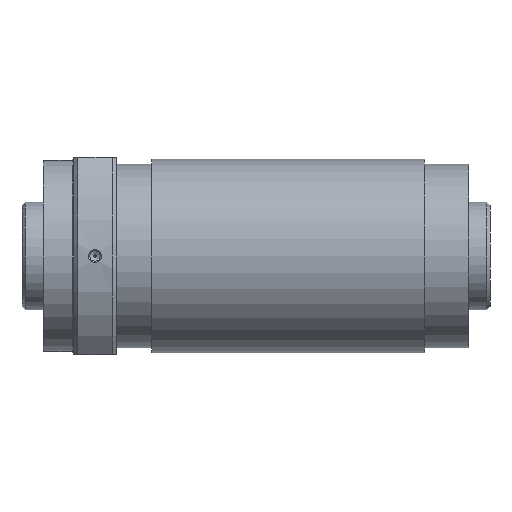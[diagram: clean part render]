
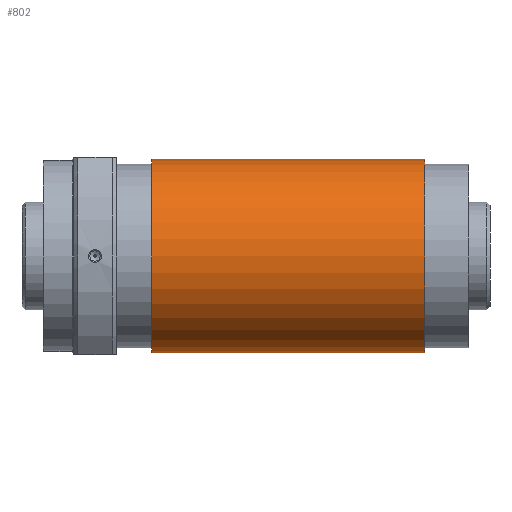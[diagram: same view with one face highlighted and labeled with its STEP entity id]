
A CAD part, front view. The second image highlights one B-rep face of the part: STEP entity #802.
In plain terms, the highlighted cylindrical face has radius 45 mm (diameter 90 mm), a full revolution.
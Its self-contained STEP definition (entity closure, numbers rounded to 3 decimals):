
#70=CYLINDRICAL_SURFACE('',#915,45.);
#148=ORIENTED_EDGE('',*,*,#305,.T.);
#149=ORIENTED_EDGE('',*,*,#304,.F.);
#304=EDGE_CURVE('',#386,#386,#458,.T.);
#305=EDGE_CURVE('',#387,#387,#459,.T.);
#386=VERTEX_POINT('',#1395);
#387=VERTEX_POINT('',#1398);
#458=CIRCLE('',#914,45.);
#459=CIRCLE('',#916,45.);
#534=EDGE_LOOP('',(#148));
#535=EDGE_LOOP('',(#149));
#664=FACE_BOUND('',#534,.T.);
#665=FACE_BOUND('',#535,.T.);
#802=ADVANCED_FACE('',(#664,#665),#70,.T.);
#914=AXIS2_PLACEMENT_3D('',#1394,#1089,#1090);
#915=AXIS2_PLACEMENT_3D('',#1396,#1091,#1092);
#916=AXIS2_PLACEMENT_3D('',#1397,#1093,#1094);
#1089=DIRECTION('',(1.,0.,0.));
#1090=DIRECTION('',(0.,0.,-1.));
#1091=DIRECTION('',(1.,0.,0.));
#1092=DIRECTION('',(0.,0.,-1.));
#1093=DIRECTION('',(1.,0.,0.));
#1094=DIRECTION('',(0.,0.,-1.));
#1394=CARTESIAN_POINT('',(177.5,0.,0.));
#1395=CARTESIAN_POINT('',(177.5,0.,-45.));
#1396=CARTESIAN_POINT('',(198.,0.,0.));
#1397=CARTESIAN_POINT('',(50.4,0.,0.));
#1398=CARTESIAN_POINT('',(50.4,0.,-45.));
